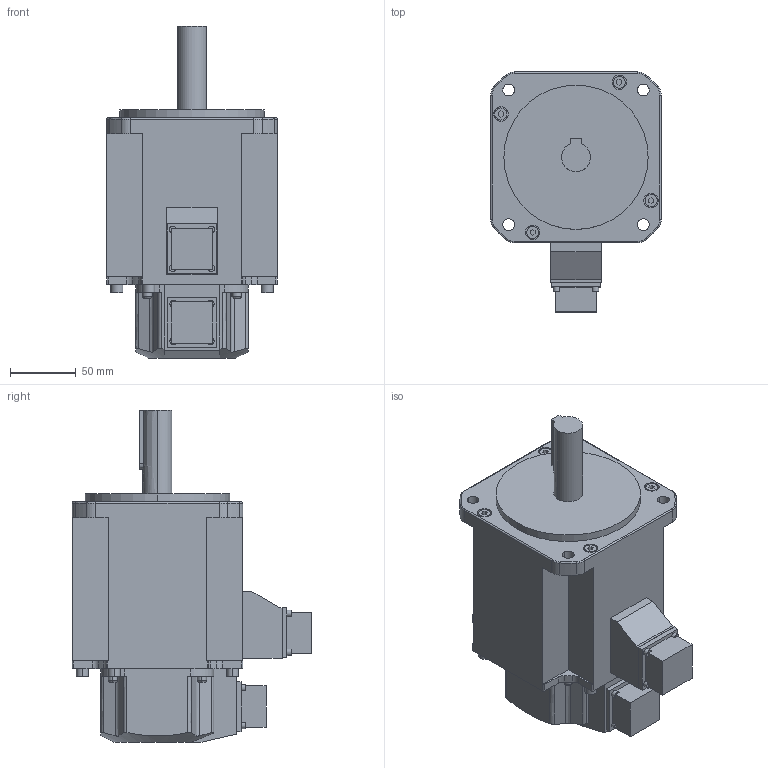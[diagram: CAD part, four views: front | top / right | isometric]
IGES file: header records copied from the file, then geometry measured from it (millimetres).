
Start section:  PTC IGES file: rsmh_10ask3.igs
Global section: file name: rsmh_10ask3.igs; native system: Pro/ENGINEER by Parametric Technology Corporation; preprocessor: 2004440; author: Administrator; organization: Unknown; date: 070829.192955; units: millimetre
Bounding box: 130 x 182.7 x 253 mm (x, y, z)
Volume: 2373502.1 mm3; surface area: 138530.9 mm2
Topology: 1 solids, 1 shells, 290 faces, 744 edges, 488 vertices
Faces by surface type: bspline 164, revolution 126
